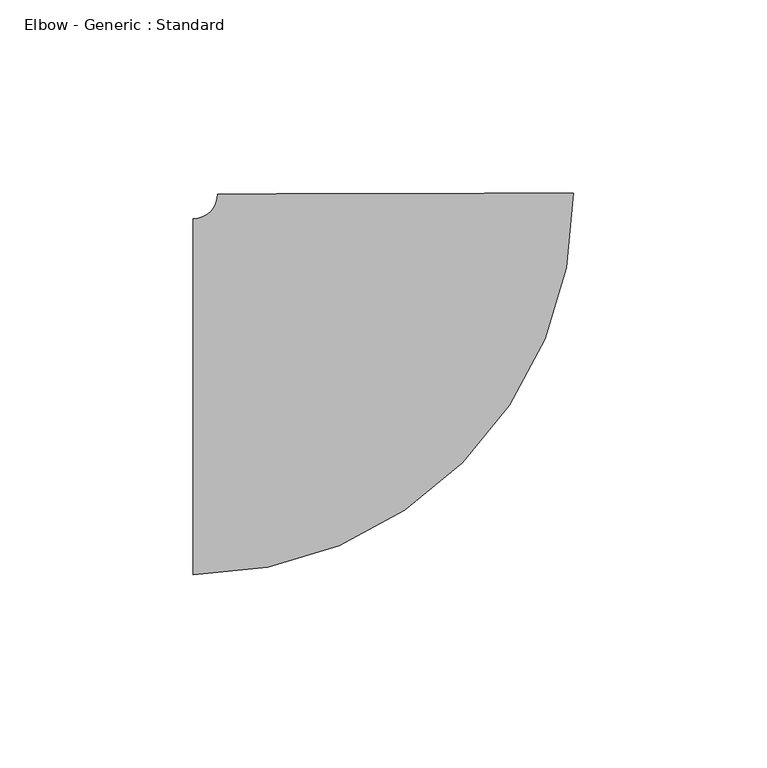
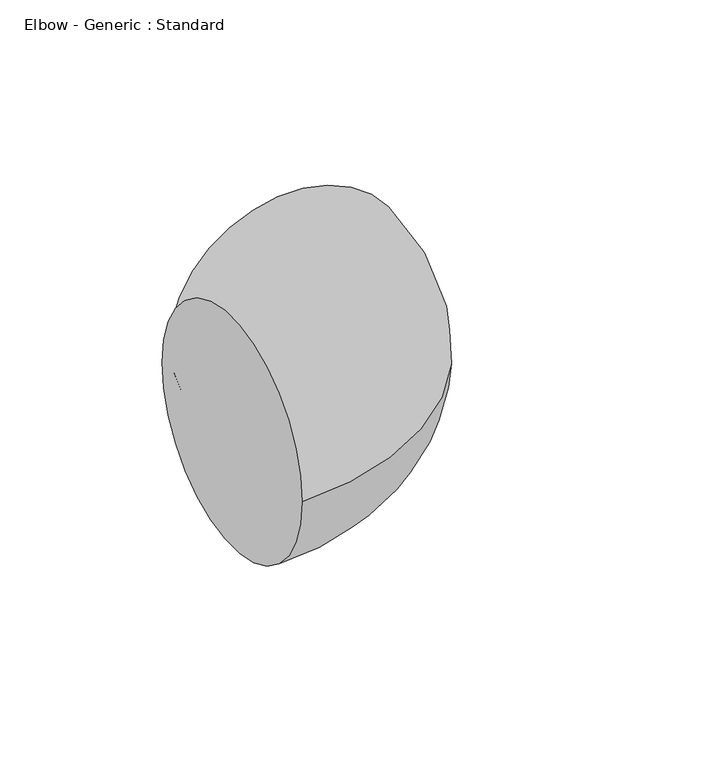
"""IFC4 building model written with IfcOpenShell, lengths in millimetres: pipe fitting geometry, Elbow - Generic : Standard."""

from ifc_helpers import new_model, si_unit, point, frame, origin, place, context, project, spatial, circle_curve, ellipse_curve, trimmed, source, transform, mapped, element, save
from ifc_brep_helpers import plane_surface, revolved_surface, advanced_brep


def elbow_generic_standard_17437e0f(model_context):
    return source(origin(), model_context, "Body", "AdvancedBrep", [
        advanced_brep(
        [(-52.5089007, -46.0375, 0.0), (-52.5089007, 46.0375, 0.0), (45.9158356, 52.6153219, 0.0), (-46.1589177, 52.4021982, 0.0)],
        [
            (0, 1, circle_curve(frame((-52.5089007, 0.0, 0.0), z_axis=(-1.0, 0.0, 0.0), x_axis=(0.0, 1.0, 0.0)), 46.0375)),
            (1, 0, circle_curve(frame((-52.5089007, 0.0, 0.0), z_axis=(-1.0, 0.0, 0.0), x_axis=(0.0, 1.0, 0.0)), 46.0375)),
            (2, 3, circle_curve(frame((-0.121541, 52.50876, 0.0), z_axis=(-0.002314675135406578, 0.9999973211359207, 0.0), x_axis=(-0.9999973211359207, -0.002314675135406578, 0.0)), 46.0375)),
            (3, 2, circle_curve(frame((-0.121541, 52.50876, 0.0), z_axis=(-0.002314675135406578, 0.9999973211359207, 0.0), x_axis=(-0.9999973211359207, -0.002314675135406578, 0.0)), 46.0375)),
            (3, 1, circle_curve(frame((-52.5089007, 52.3875, 0.0), z_axis=(0.0, 0.0, -1.0), x_axis=(0.0, -1.0, 0.0)), 6.35)),
            (0, 2, circle_curve(frame((-52.5089007, 52.3875, 0.0), z_axis=(0.0, 0.0, 1.0), x_axis=(0.0, -1.0, 0.0)), 98.425)),
        ],
        [
            plane_surface(frame((-52.5089007, 0.0, 0.0), z_axis=(-1.0, 0.0, 0.0), x_axis=(0.0, 0.0, 1.0))),
            plane_surface(frame((-0.121541, 52.50876, 0.0), z_axis=(-0.0023146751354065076, 0.9999973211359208, 0.0), x_axis=(0.0, 0.0, 1.0))),
            revolved_surface(trimmed(ellipse_curve(frame((-52.5089007, 0.0, 0.0), z_axis=(-1.0, 0.0, 0.0), x_axis=(0.0, 1.0, 0.0)), 46.0375, 46.0375), [point((-52.5089007, -46.0375, 0.0))], [point((-52.5089007, 46.0375, 0.0))], True, "CARTESIAN"), (-52.5089007, 52.3875, 0.0), (0.0, 0.0, 1.0)),
            revolved_surface(trimmed(ellipse_curve(frame((-52.5089007, 0.0, 0.0), z_axis=(-1.0, 0.0, 0.0), x_axis=(0.0, 1.0, 0.0)), 46.0375, 46.0375), [point((-52.5089007, 46.0375, 0.0))], [point((-52.5089007, -46.0375, 0.0))], True, "CARTESIAN"), (-52.5089007, 52.3875, 0.0), (0.0, 0.0, 1.0)),
        ],
        [
            (0, [[1, 2]]),
            (1, [[3, 4]]),
            (2, [[5, -1, 6, -4]]),
            (3, [[-6, -2, -5, -3]]),
        ],
    ),
    ])


if __name__ == "__main__":
    model = new_model("IFC4")
    model_context = context("Model", 3, world=origin())
    ifc_project = project(units=[si_unit("LENGTHUNIT", "METRE", prefix="MILLI")], contexts=[model_context])
    site = spatial("IfcSite", under=ifc_project)
    building = spatial("IfcBuilding", under=site)
    placement = place(None, origin())
    elbow_generic_standard_shape = elbow_generic_standard_17437e0f(model_context)
    element("IfcPipeFitting", 1, ObjectType="Elbow - Generic : Standard", at=placement, inside=building, context=model_context, shape_type="MappedRepresentation", body=[
        mapped(elbow_generic_standard_shape, transform((0.0, 0.0, 0.0), x_axis=(1.0, 0.0, 0.0), y_axis=(0.0, 1.0, 0.0), z_axis=(0.0, 0.0, 1.0))),
    ])
    save(model, "model.ifc")
